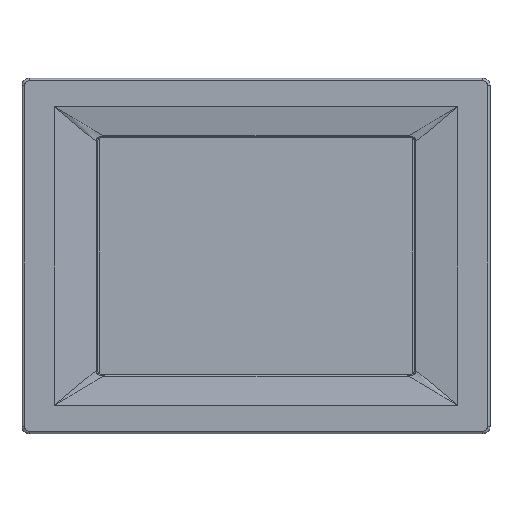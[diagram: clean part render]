
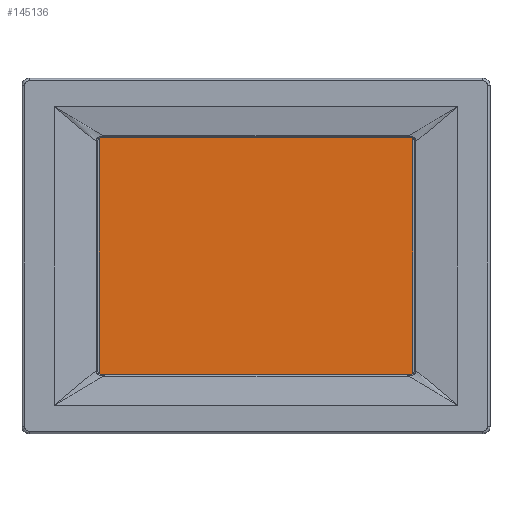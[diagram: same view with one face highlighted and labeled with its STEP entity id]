
A CAD part, top view. The second image highlights one B-rep face of the part: STEP entity #145136.
In plain terms, the highlighted planar face has unit normal (0, 0, 1).
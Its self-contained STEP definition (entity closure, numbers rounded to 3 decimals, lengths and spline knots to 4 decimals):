
#144829=DIRECTION('',(0.,-1.,0.));
#144830=VECTOR('',#144829,3.874);
#144831=CARTESIAN_POINT('',(-2.5709,1.937,
0.0669));
#144832=LINE('',#144831,#144830);
#144833=DIRECTION('',(-1.,0.,0.));
#144834=VECTOR('',#144833,5.1417);
#144835=CARTESIAN_POINT('',(2.5709,1.937,
0.0669));
#144836=LINE('',#144835,#144834);
#144837=DIRECTION('',(0.,1.,0.));
#144838=VECTOR('',#144837,3.874);
#144839=CARTESIAN_POINT('',(2.5709,-1.937,
0.0669));
#144840=LINE('',#144839,#144838);
#144841=DIRECTION('',(1.,0.,0.));
#144842=VECTOR('',#144841,5.1417);
#144843=CARTESIAN_POINT('',(-2.5709,-1.937,
0.0669));
#144844=LINE('',#144843,#144842);
#144865=CARTESIAN_POINT('',(-2.5709,1.937,
0.0669));
#144866=CARTESIAN_POINT('',(-2.5709,-1.937,
0.0669));
#144867=VERTEX_POINT('',#144865);
#144868=VERTEX_POINT('',#144866);
#144869=CARTESIAN_POINT('',(2.5709,-1.937,
0.0669));
#144870=VERTEX_POINT('',#144869);
#144871=CARTESIAN_POINT('',(2.5709,1.937,
0.0669));
#144872=VERTEX_POINT('',#144871);
#145125=CARTESIAN_POINT('',(0.,0.,0.0669));
#145126=DIRECTION('',(0.,0.,1.));
#145127=DIRECTION('',(1.,0.,0.));
#145128=AXIS2_PLACEMENT_3D('',#145125,#145126,#145127);
#145129=PLANE('',#145128);
#145130=ORIENTED_EDGE('',*,*,#145107,.F.);
#145131=ORIENTED_EDGE('',*,*,#145093,.F.);
#145132=ORIENTED_EDGE('',*,*,#145079,.F.);
#145133=ORIENTED_EDGE('',*,*,#145120,.F.);
#145134=EDGE_LOOP('',(#145130,#145131,#145132,#145133));
#145135=FACE_OUTER_BOUND('',#145134,.F.);
#145136=ADVANCED_FACE('',(#145135),#145129,.T.);
#145079=EDGE_CURVE('',#144870,#144872,#144840,.T.);
#145093=EDGE_CURVE('',#144872,#144867,#144836,.T.);
#145107=EDGE_CURVE('',#144867,#144868,#144832,.T.);
#145120=EDGE_CURVE('',#144868,#144870,#144844,.T.);
